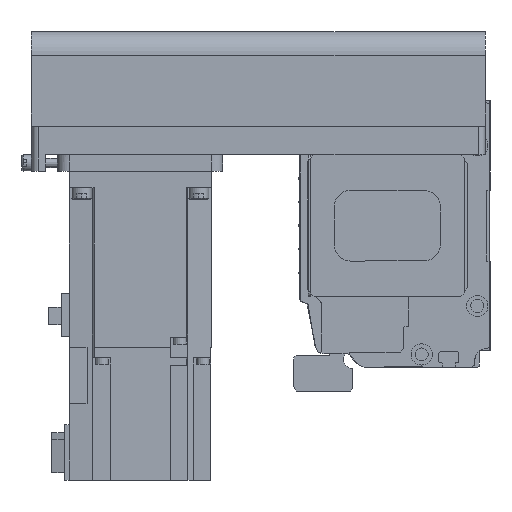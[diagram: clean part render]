
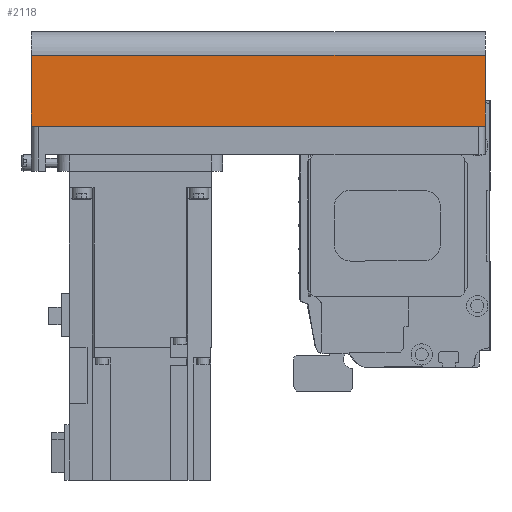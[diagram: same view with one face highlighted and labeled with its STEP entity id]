
A CAD part, left-side view. The second image highlights one B-rep face of the part: STEP entity #2118.
In plain terms, the highlighted planar face has unit normal (-1, 0, 0) as drawn and (0, 1, 0) by its records, which use the part's own axes.
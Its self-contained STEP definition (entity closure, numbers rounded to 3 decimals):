
#2118 = ADVANCED_FACE( '', ( #4466 ), #4467, .T. );
#4466 = FACE_OUTER_BOUND( '', #6954, .T. );
#4467 = PLANE( '', #6955 );
#6954 = EDGE_LOOP( '', ( #12744, #12745, #12746, #12747 ) );
#6955 = AXIS2_PLACEMENT_3D( '', #12748, #12749, #12750 );
#12744 = ORIENTED_EDGE( '', *, *, #15511, .F. );
#12745 = ORIENTED_EDGE( '', *, *, #15144, .F. );
#12746 = ORIENTED_EDGE( '', *, *, #16132, .T. );
#12747 = ORIENTED_EDGE( '', *, *, #15930, .T. );
#12748 = CARTESIAN_POINT( '', ( -192., 40., -42. ) );
#12749 = DIRECTION( '', ( 0., 1., 0. ) );
#12750 = DIRECTION( '', ( 0., 0., 1. ) );
#15144 = EDGE_CURVE( '', #18482, #18478, #18484, .T. );
#15511 = EDGE_CURVE( '', #18478, #19011, #19012, .T. );
#15930 = EDGE_CURVE( '', #19583, #19011, #19584, .T. );
#16132 = EDGE_CURVE( '', #18482, #19583, #19830, .T. );
#18478 = VERTEX_POINT( '', #22870 );
#18482 = VERTEX_POINT( '', #22875 );
#18484 = LINE( '', #22877, #22878 );
#19011 = VERTEX_POINT( '', #23597 );
#19012 = LINE( '', #23598, #23599 );
#19583 = VERTEX_POINT( '', #24377 );
#19584 = LINE( '', #24378, #24379 );
#19830 = LINE( '', #24710, #24711 );
#22870 = CARTESIAN_POINT( '', ( 0., 40., -42. ) );
#22875 = CARTESIAN_POINT( '', ( -192., 40., -42. ) );
#22877 = CARTESIAN_POINT( '', ( -192., 40., -42. ) );
#22878 = VECTOR( '', #26750, 1000. );
#23597 = CARTESIAN_POINT( '', ( 0., 40., -12.1 ) );
#23598 = CARTESIAN_POINT( '', ( 0., 40., -42. ) );
#23599 = VECTOR( '', #27159, 1000. );
#24377 = CARTESIAN_POINT( '', ( -192., 40., -12.1 ) );
#24378 = CARTESIAN_POINT( '', ( -192., 40., -12.1 ) );
#24379 = VECTOR( '', #27622, 1000. );
#24710 = CARTESIAN_POINT( '', ( -192., 40., -42. ) );
#24711 = VECTOR( '', #27831, 1000. );
#26750 = DIRECTION( '', ( 1., 0., 0. ) );
#27159 = DIRECTION( '', ( 0., 0., 1. ) );
#27622 = DIRECTION( '', ( 1., 0., 0. ) );
#27831 = DIRECTION( '', ( 0., 0., 1. ) );
